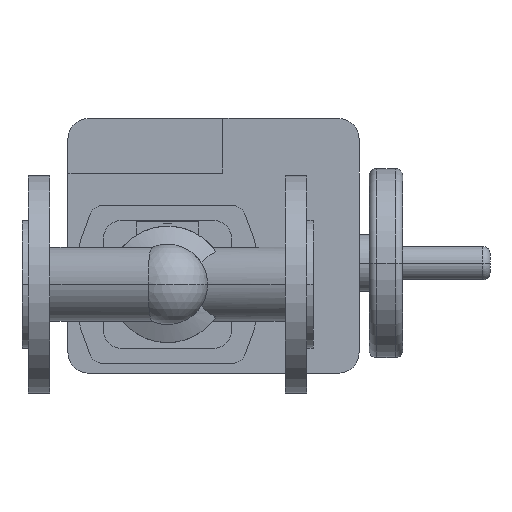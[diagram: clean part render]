
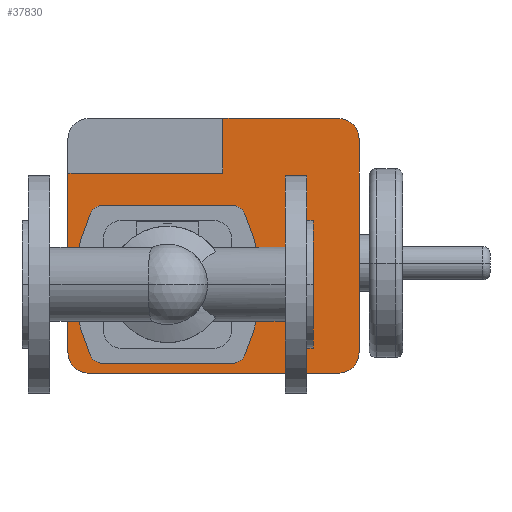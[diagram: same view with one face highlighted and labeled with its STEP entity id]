
A CAD part, front view. The second image highlights one B-rep face of the part: STEP entity #37830.
In plain terms, the highlighted planar face has unit normal (0, -1, 0).
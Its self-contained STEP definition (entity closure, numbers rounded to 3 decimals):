
#35650=CARTESIAN_POINT('',(144.784,387.,54.2));
#35660=VERTEX_POINT('',#35650);
#35690=CARTESIAN_POINT('',(144.784,387.,45.2));
#35700=DIRECTION('',(0.,1.,0.));
#35710=DIRECTION('',(0.,0.,1.));
#35720=AXIS2_PLACEMENT_3D('',#35690,#35700,#35710);
#35730=CIRCLE('',#35720,9.);
#35740=CARTESIAN_POINT('',(152.942,387.,49.002));
#35750=VERTEX_POINT('',#35740);
#35760=EDGE_CURVE('',#35660,#35750,#35730,.T.);
#35940=CARTESIAN_POINT('',(47.8,387.,0.));
#35950=DIRECTION('',(0.,1.,0.));
#35960=DIRECTION('',(0.906,0.,0.422));
#35970=AXIS2_PLACEMENT_3D('',#35940,#35950,#35960);
#35980=CIRCLE('',#35970,116.);
#35990=CARTESIAN_POINT('',(152.942,387.,-49.002));
#36000=VERTEX_POINT('',#35990);
#36010=EDGE_CURVE('',#35750,#36000,#35980,.T.);
#36190=CARTESIAN_POINT('',(144.784,387.,-45.2));
#36200=DIRECTION('',(0.,1.,0.));
#36210=DIRECTION('',(0.906,0.,-0.422));
#36220=AXIS2_PLACEMENT_3D('',#36190,#36200,#36210);
#36230=CIRCLE('',#36220,9.);
#36240=CARTESIAN_POINT('',(144.784,387.,-54.2));
#36250=VERTEX_POINT('',#36240);
#36260=EDGE_CURVE('',#36000,#36250,#36230,.T.);
#36440=CARTESIAN_POINT('',(122.392,387.,-54.2));
#36450=DIRECTION('',(-1.,0.,0.));
#36460=VECTOR('',#36450,1.);
#36470=LINE('',#36440,#36460);
#36480=CARTESIAN_POINT('',(55.216,387.,-54.2));
#36490=VERTEX_POINT('',#36480);
#36500=EDGE_CURVE('',#36250,#36490,#36470,.T.);
#36620=CARTESIAN_POINT('',(100.,387.,0.));
#36630=DIRECTION('',(0.,1.,0.));
#36640=DIRECTION('',(0.,0.,1.));
#36650=AXIS2_PLACEMENT_3D('',#36620,#36630,#36640);
#36660=PLANE('',#36650);
#36670=CARTESIAN_POINT('',(152.2,387.,0.));
#36680=DIRECTION('',(0.,1.,0.));
#36690=DIRECTION('',(-0.906,0.,-0.422));
#36700=AXIS2_PLACEMENT_3D('',#36670,#36680,#36690);
#36710=CIRCLE('',#36700,116.);
#36720=CARTESIAN_POINT('',(47.058,387.,-49.002));
#36730=VERTEX_POINT('',#36720);
#36740=CARTESIAN_POINT('',(47.058,387.,49.002));
#36750=VERTEX_POINT('',#36740);
#36760=EDGE_CURVE('',#36730,#36750,#36710,.T.);
#36770=ORIENTED_EDGE('',*,*,#36760,.T.);
#36780=CARTESIAN_POINT('',(55.216,387.,-45.2));
#36790=DIRECTION('',(0.,1.,0.));
#36800=DIRECTION('',(0.,0.,-1.));
#36810=AXIS2_PLACEMENT_3D('',#36780,#36790,#36800);
#36820=CIRCLE('',#36810,9.);
#36830=EDGE_CURVE('',#36490,#36730,#36820,.T.);
#36840=ORIENTED_EDGE('',*,*,#36830,.T.);
#36850=ORIENTED_EDGE('',*,*,#36500,.T.);
#36860=ORIENTED_EDGE('',*,*,#36260,.T.);
#36870=ORIENTED_EDGE('',*,*,#36010,.T.);
#36880=ORIENTED_EDGE('',*,*,#35760,.T.);
#36890=CARTESIAN_POINT('',(77.608,387.,54.2));
#36900=DIRECTION('',(1.,0.,0.));
#36910=VECTOR('',#36900,1.);
#36920=LINE('',#36890,#36910);
#36930=CARTESIAN_POINT('',(55.216,387.,54.2));
#36940=VERTEX_POINT('',#36930);
#36950=EDGE_CURVE('',#36940,#35660,#36920,.T.);
#36960=ORIENTED_EDGE('',*,*,#36950,.T.);
#36970=CARTESIAN_POINT('',(55.216,387.,45.2));
#36980=DIRECTION('',(0.,1.,0.));
#36990=DIRECTION('',(-0.906,0.,0.422));
#37000=AXIS2_PLACEMENT_3D('',#36970,#36980,#36990);
#37010=CIRCLE('',#37000,9.);
#37020=EDGE_CURVE('',#36750,#36940,#37010,.T.);
#37030=ORIENTED_EDGE('',*,*,#37020,.T.);
#37040=EDGE_LOOP('',(#37030,#36960,#36880,#36870,#36860,#36850,#36840,
#36770));
#37050=FACE_BOUND('',#37040,.T.);
#37060=CARTESIAN_POINT('',(138.1,387.,38.25));
#37070=DIRECTION('',(0.,0.,-1.));
#37080=VECTOR('',#37070,1.);
#37090=LINE('',#37060,#37080);
#37100=CARTESIAN_POINT('',(138.1,387.,114.));
#37110=VERTEX_POINT('',#37100);
#37120=CARTESIAN_POINT('',(138.1,387.,76.5));
#37130=VERTEX_POINT('',#37120);
#37140=EDGE_CURVE('',#37110,#37130,#37090,.T.);
#37150=ORIENTED_EDGE('',*,*,#37140,.T.);
#37160=CARTESIAN_POINT('',(45.6,387.,114.));
#37170=DIRECTION('',(1.,0.,0.));
#37180=VECTOR('',#37170,1.);
#37190=LINE('',#37160,#37180);
#37200=CARTESIAN_POINT('',(217.6,387.,114.));
#37210=VERTEX_POINT('',#37200);
#37220=EDGE_CURVE('',#37110,#37210,#37190,.T.);
#37230=ORIENTED_EDGE('',*,*,#37220,.F.);
#37240=CARTESIAN_POINT('',(217.6,387.,100.));
#37250=DIRECTION('',(0.,1.,0.));
#37260=DIRECTION('',(0.,0.,1.));
#37270=AXIS2_PLACEMENT_3D('',#37240,#37250,#37260);
#37280=CIRCLE('',#37270,14.);
#37290=CARTESIAN_POINT('',(231.6,387.,100.));
#37300=VERTEX_POINT('',#37290);
#37310=EDGE_CURVE('',#37210,#37300,#37280,.T.);
#37320=ORIENTED_EDGE('',*,*,#37310,.F.);
#37330=CARTESIAN_POINT('',(231.6,387.,100.));
#37340=DIRECTION('',(0.,0.,-1.));
#37350=VECTOR('',#37340,1.);
#37360=LINE('',#37330,#37350);
#37370=CARTESIAN_POINT('',(231.6,387.,-47.));
#37380=VERTEX_POINT('',#37370);
#37390=EDGE_CURVE('',#37300,#37380,#37360,.T.);
#37400=ORIENTED_EDGE('',*,*,#37390,.F.);
#37410=CARTESIAN_POINT('',(217.6,387.,-47.));
#37420=DIRECTION('',(0.,1.,0.));
#37430=DIRECTION('',(1.,0.,0.));
#37440=AXIS2_PLACEMENT_3D('',#37410,#37420,#37430);
#37450=CIRCLE('',#37440,14.);
#37460=CARTESIAN_POINT('',(217.6,387.,-61.));
#37470=VERTEX_POINT('',#37460);
#37480=EDGE_CURVE('',#37380,#37470,#37450,.T.);
#37490=ORIENTED_EDGE('',*,*,#37480,.F.);
#37500=CARTESIAN_POINT('',(217.6,387.,-61.));
#37510=DIRECTION('',(-1.,0.,0.));
#37520=VECTOR('',#37510,1.);
#37530=LINE('',#37500,#37520);
#37540=CARTESIAN_POINT('',(45.6,387.,-61.));
#37550=VERTEX_POINT('',#37540);
#37560=EDGE_CURVE('',#37470,#37550,#37530,.T.);
#37570=ORIENTED_EDGE('',*,*,#37560,.F.);
#37580=CARTESIAN_POINT('',(45.6,387.,-47.));
#37590=DIRECTION('',(0.,1.,0.));
#37600=DIRECTION('',(0.,0.,-1.));
#37610=AXIS2_PLACEMENT_3D('',#37580,#37590,#37600);
#37620=CIRCLE('',#37610,14.);
#37630=CARTESIAN_POINT('',(31.6,387.,-47.));
#37640=VERTEX_POINT('',#37630);
#37650=EDGE_CURVE('',#37550,#37640,#37620,.T.);
#37660=ORIENTED_EDGE('',*,*,#37650,.F.);
#37670=CARTESIAN_POINT('',(31.6,387.,-47.));
#37680=DIRECTION('',(0.,0.,1.));
#37690=VECTOR('',#37680,1.);
#37700=LINE('',#37670,#37690);
#37710=CARTESIAN_POINT('',(31.6,387.,76.5));
#37720=VERTEX_POINT('',#37710);
#37730=EDGE_CURVE('',#37640,#37720,#37700,.T.);
#37740=ORIENTED_EDGE('',*,*,#37730,.F.);
#37750=CARTESIAN_POINT('',(65.3,387.,76.5));
#37760=DIRECTION('',(-1.,0.,0.));
#37770=VECTOR('',#37760,1.);
#37780=LINE('',#37750,#37770);
#37790=EDGE_CURVE('',#37130,#37720,#37780,.T.);
#37800=ORIENTED_EDGE('',*,*,#37790,.T.);
#37810=EDGE_LOOP('',(#37800,#37740,#37660,#37570,#37490,#37400,#37320,
#37230,#37150));
#37820=FACE_OUTER_BOUND('',#37810,.T.);
#37830=ADVANCED_FACE('',(#37050,#37820),#36660,.F.);
